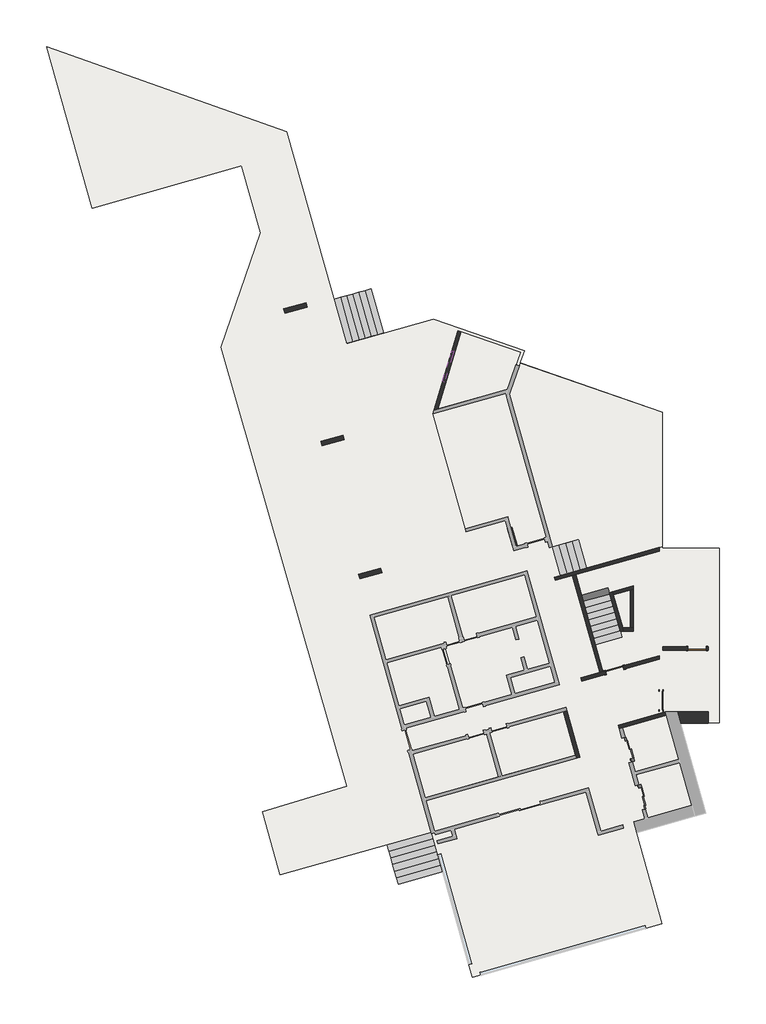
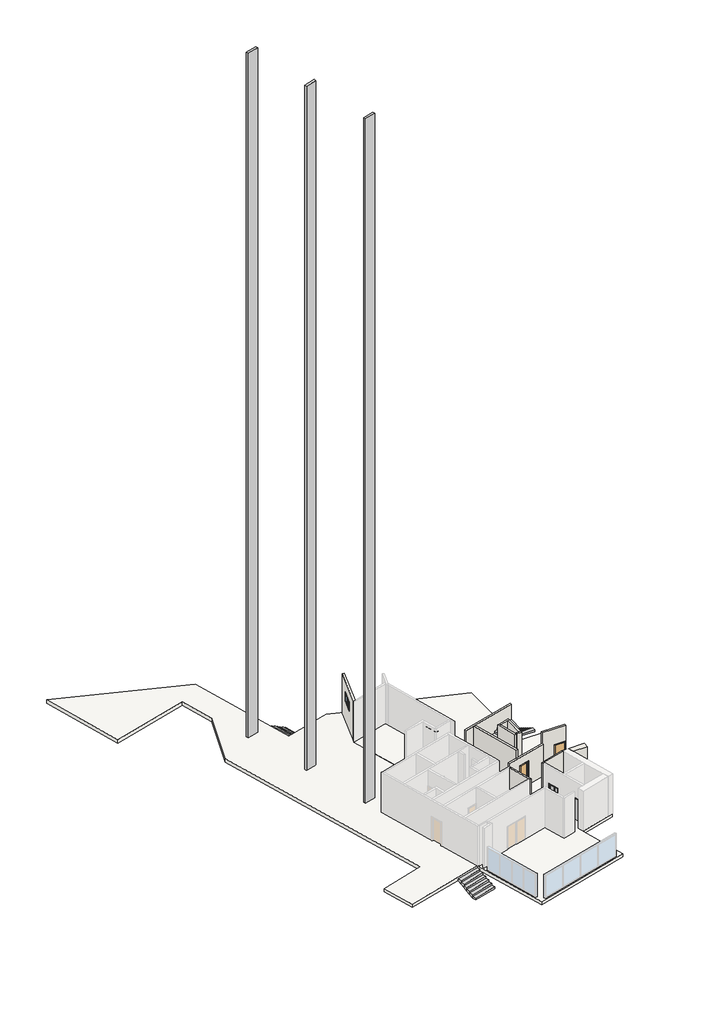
# One storey, part 2 of 2: 12 walls, 8 slabs, 4 columns, 4 stair flights, 3 doors, 2 proxies, 1 window.
"""IFC4 building model written with IfcOpenShell, lengths in millimetres."""

from ifc_helpers import new_model, si_unit, frame, origin, place, context, project, spatial, polyline, outline, extrude, faceted_brep, transform, mapped, element, save
from components import specialty_equipment_6c35da8b, specialty_equipment_77dfa124, p2_80cm_9d4be4ef, p2_80cm_083652d6, window_2_00_x_0_80_a1bbb97e

model = new_model("IFC4")

# Units and contexts
model_context = context("Model", 3, world=origin())
ifc_project = project(units=[si_unit("LENGTHUNIT", "METRE", prefix="MILLI")], contexts=[model_context])

# Site, building, storey
site = spatial("IfcSite", under=ifc_project)
building = spatial("IfcBuilding", under=site)
storey = spatial("IfcBuildingStorey", under=building, Name="Área de Lazer", Elevation=32650.0)

# Proxies
placement = place(None, origin())
specialty_equipment_shape = specialty_equipment_6c35da8b(model_context)
element("IfcBuildingElementProxy", 1, Name="Porta do elevador : Porta do elevador", ObjectType="Porta do elevador : Porta do elevador", at=placement, inside=storey, context=model_context, shape_type="MappedRepresentation", body=[
    mapped(specialty_equipment_shape, transform((-76595.3275875, 15747.2019556, 32650.0), x_axis=(0.2717679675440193, -0.9623628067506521, 0.0), y_axis=(0.9623628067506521, 0.2717679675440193, 0.0), z_axis=(0.0, 0.0, 1.0))),
])
specialty_equipment_2_shape = specialty_equipment_77dfa124(model_context)
element("IfcBuildingElementProxy", 2, Name="Porta do elevador : Porta do elevador", ObjectType="Porta do elevador : Porta do elevador", at=placement, inside=storey, context=model_context, shape_type="MappedRepresentation", body=[
    mapped(specialty_equipment_2_shape, transform((-75943.0844654, 13437.5312194, 32650.0), x_axis=(-0.27176796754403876, 0.9623628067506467, 0.0), y_axis=(-0.9623628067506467, -0.27176796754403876, 0.0), z_axis=(0.0, 0.0, 1.0))),
])

# Columns
element("IfcColumn", 3, ObjectType="M_Concrete-Rectangular-Column : 1.00m x 0.20m", at=placement, inside=storey, context=model_context, shape_type="SweptSolid", body=[
    extrude(outline(polyline([(-81788.3247209, 25310.0454163), (-81595.8521595, 25364.3990098), (-81324.084192, 24402.036203), (-81516.5567533, 24347.6826095), (-81788.3247209, 25310.0454163)])), frame((0.0, 0.0, 32650.0), z_axis=(0.0, 0.0, 1.0), x_axis=(1.0, 0.0, 0.0)), (0.0, 0.0, 1.0), 3300.0),
])
element("IfcColumn", 4, ObjectType="M_Concrete-Rectangular-Column : 1.00m x 0.20m", at=placement, inside=storey, context=model_context, shape_type="SweptSolid", body=[
    extrude(outline(polyline([(-87335.9530215, 23574.8619051), (-87281.599428, 23382.3893437), (-88243.9622347, 23110.6213762), (-88298.3158282, 23303.0939375), (-87335.9530215, 23574.8619051)])), frame((0.0, 0.0, 32650.0), z_axis=(0.0, 0.0, 1.0), x_axis=(1.0, 0.0, 0.0)), (0.0, 0.0, 1.0), 61600.0),
])
element("IfcColumn", 5, ObjectType="M_Concrete-Rectangular-Column : 1.00m x 0.20m", at=placement, inside=storey, context=model_context, shape_type="SweptSolid", body=[
    extrude(outline(polyline([(-88994.5846672, 29393.0803664), (-88940.2310737, 29200.607805), (-89902.5938805, 28928.8398375), (-89956.947474, 29121.3123988), (-88994.5846672, 29393.0803664)])), frame((0.0, 0.0, 32650.0), z_axis=(0.0, 0.0, 1.0), x_axis=(1.0, 0.0, 0.0)), (0.0, 0.0, 1.0), 61600.0),
])
element("IfcColumn", 6, ObjectType="M_Concrete-Rectangular-Column : 1.00m x 0.20m", at=placement, inside=storey, context=model_context, shape_type="SweptSolid", body=[
    extrude(outline(polyline([(-90613.47471, 35180.9573543), (-90559.1211165, 34988.4847929), (-91521.4839232, 34716.7168254), (-91575.8375167, 34909.1893867), (-90613.47471, 35180.9573543)])), frame((0.0, 0.0, 32650.0), z_axis=(0.0, 0.0, 1.0), x_axis=(1.0, 0.0, 0.0)), (0.0, 0.0, 1.0), 61600.0),
])

# Doors
p2_80cm_shape = p2_80cm_9d4be4ef(model_context)
element("IfcDoor", 7, ObjectType="M_Folha única1 : P2 - 80CM", at=placement, inside=storey, context=model_context, shape_type="MappedRepresentation", body=[
    mapped(p2_80cm_shape, transform((-73498.3760975, 20071.8166516, 32650.0), x_axis=(1.0, 0.0, 0.0), y_axis=(0.0, 1.0, 0.0), z_axis=(0.0, 0.0, 1.0))),
])
p2_80cm_2_shape = p2_80cm_083652d6(model_context)
element("IfcDoor", 8, ObjectType="M_Folha única1 : P2 - 80CM", at=placement, inside=storey, context=model_context, shape_type="MappedRepresentation", body=[
    mapped(p2_80cm_2_shape, transform((-75071.0514969, 17796.8166516, 32650.0), x_axis=(0.0, -1.0, 0.0), y_axis=(1.0, 0.0, 0.0), z_axis=(0.0, 0.0, 1.0))),
])
element("IfcDoor", 9, ObjectType="M_Folha única1 : PCF1 - 80CM", at=placement, inside=storey, context=model_context, shape_type="MappedRepresentation", body=[
    mapped(p2_80cm_shape, transform((-77107.4928767, 19124.6744134, 32650.0), x_axis=(-0.962362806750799, -0.27176796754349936, 0.0), y_axis=(0.27176796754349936, -0.962362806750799, 0.0), z_axis=(0.0, 0.0, 1.0))),
])

# Slabs
element("IfcSlab", 10, ObjectType="TZ_Piso de Áreas Molhadas", at=placement, inside=storey, context=model_context, shape_type="SweptSolid", body=[
    extrude(outline(polyline([(-83820.8577908, 33912.6770394), (-81227.7294987, 33014.3892699), (-81786.1608388, 31401.4141059), (-84835.9383396, 30540.1673629), (-83820.8577908, 33912.6770394)])), frame((0.0, 0.0, 32650.0), z_axis=(0.0, 0.0, 1.0), x_axis=(1.0, 0.0, 0.0)), (0.0, 0.0, 1.0), 20.0),
])
element("IfcSlab", 11, ObjectType="TZ_Piso de Áreas Molhadas", at=placement, inside=storey, context=model_context, shape_type="SweptSolid", body=[
    extrude(outline(polyline([(-83639.5945753, 25306.6586424), (-85058.4086835, 30321.4761254), (-81866.468334, 31222.8691709), (-80088.1519276, 24905.7475268), (-81413.0534441, 24532.7779631), (-81779.4503725, 25832.9387807), (-83639.5945753, 25306.6586424)])), frame((0.0, 0.0, 32650.0), z_axis=(0.0, 0.0, 1.0), x_axis=(1.0, 0.0, 0.0)), (0.0, 0.0, 1.0), 20.0),
])
element("IfcSlab", 12, ObjectType="TZ_Piso de Áreas Molhadas", at=placement, inside=storey, context=model_context, shape_type="SweptSolid", body=[
    extrude(outline(polyline([(-87068.2844594, 19440.7357422), (-84662.3774425, 20120.1556611), (-83894.944188, 17402.5829187), (-84986.2353871, 17094.4060138), (-85225.3911986, 17941.2852837), (-86540.0070163, 17570.0422698), (-87068.2844594, 19440.7357422)])), frame((0.0, 0.0, 32650.0), z_axis=(0.0, 0.0, 1.0), x_axis=(1.0, 0.0, 0.0)), (0.0, 0.0, 1.0), 20.0),
])
element("IfcSlab", 13, ObjectType="TZ_Piso de Áreas Molhadas", at=placement, inside=storey, context=model_context, shape_type="SweptSolid", body=[
    extrude(outline(polyline([(-80476.0992332, 21302.3463199), (-79947.82179, 19431.6528475), (-81844.6627518, 18895.9914427), (-81605.5069404, 18049.1121728), (-83750.589767, 17443.3481138), (-84518.0230215, 20160.9208562), (-80476.0992332, 21302.3463199)])), frame((0.0, 0.0, 32650.0), z_axis=(0.0, 0.0, 1.0), x_axis=(1.0, 0.0, 0.0)), (0.0, 0.0, 1.0), 20.0),
])
element("IfcSlab", 14, ObjectType="TZ_Piso de Áreas Molhadas", at=placement, inside=storey, context=model_context, shape_type="SweptSolid", body=[
    extrude(outline(polyline([(-85940.4473941, 15446.9300942), (-82716.5319915, 16357.3527855), (-82180.1015093, 14457.7884288), (-85404.0169119, 13547.3657376), (-85940.4473941, 15446.9300942)])), frame((0.0, 0.0, 32650.0), z_axis=(0.0, 0.0, 1.0), x_axis=(1.0, 0.0, 0.0)), (0.0, 0.0, 1.0), 20.0),
])
element("IfcSlab", 15, ObjectType="TZ_Piso de Áreas Molhadas", at=placement, inside=storey, context=model_context, shape_type="SweptSolid", body=[
    extrude(outline(polyline([(-79348.2621679, 17308.5406719), (-78811.8316857, 15408.9763153), (-82035.7470883, 14498.553624), (-82572.1775705, 16398.1179806), (-79348.2621679, 17308.5406719)])), frame((0.0, 0.0, 32650.0), z_axis=(0.0, 0.0, 1.0), x_axis=(1.0, 0.0, 0.0)), (0.0, 0.0, 1.0), 20.0),
])
element("IfcSlab", 16, ObjectType="Laje do Terreno .30", at=placement, inside=storey, context=model_context, shape_type="SweptSolid", body=[
    extrude(outline(polyline([(-88825.9987208, 33392.1917006), (-85022.1321722, 34466.3906134), (-81062.0243906, 33094.5663203), (-81249.8824935, 32551.9562758), (-75016.0514969, 30392.4895967), (-75016.0514969, 24446.5473208), (-72518.3760975, 24446.5473208), (-72518.3760975, 16816.1835253), (-74246.5108712, 16816.1835253), (-73133.5082716, 12874.9084909), (-76161.0331377, 12019.9458159), (-75033.3954808, 8026.8462968), (-83319.3392469, 5686.9240962), (-85114.3299809, 12043.2005051), (-91736.385788, 10174.1009634), (-92513.2117725, 12926.3273198), (-88820.0735017, 14046.6594176), (-94323.2305019, 33238.4486268), (-92591.6151058, 38237.1818027), (-93418.2451963, 41165.8597406), (-99962.5568362, 39318.7037752), (-101956.3177579, 46382.4239222), (-91445.473024, 42668.0628246), (-88825.9987208, 33392.1917006)])), frame((0.0, 0.0, 32350.0), z_axis=(0.0, 0.0, 1.0), x_axis=(1.0, 0.0, 0.0)), (0.0, 0.0, 1.0), 300.0),
])
element("IfcSlab", 17, ObjectType="TZ_Laje 30cm", at=placement, inside=storey, context=model_context, shape_type="SweptSolid", body=[
    extrude(outline(polyline([(-75016.0514969, 30392.4895967), (-75016.0514969, 24519.3776789), (-78314.6838953, 23587.8551633), (-78666.6219999, 24838.0465298), (-79821.7256067, 24512.8763319), (-81701.0418755, 31188.7802571), (-81231.3202204, 32545.5260362), (-75016.0514969, 30392.4895967)])), frame((0.0, 0.0, 33250.0), z_axis=(0.0, 0.0, 1.0), x_axis=(1.0, 0.0, 0.0)), (0.0, 0.0, 1.0), 300.0),
])

# Stair flights
element("IfcStairFlight", 18, ObjectType="Profundidade de 150mm", at=placement, inside=storey, context=model_context, shape_type="Brep", body=[
    faceted_brep([(-87484.1261507, 33791.9141113, 31641.4285714), (-87214.6645648, 33868.0091422, 31641.4285714), (-87758.2004999, 35792.7347557, 31641.4285714), (-88027.6620858, 35716.6397248, 31641.4285714), (-87484.1261507, 33791.9141113, 31470.0), (-87214.6645648, 33868.0091422, 31470.0), (-87758.2004999, 35792.7347557, 31470.0), (-88027.6620858, 35716.6397248, 31470.0), (-87753.5877366, 33715.8190803, 31812.8571429), (-87484.1261507, 33791.9141113, 31812.8571429), (-88027.6620858, 35716.6397248, 31812.8571429), (-88297.1236717, 35640.5446938, 31812.8571429), (-87753.5877366, 33715.8190803, 31636.9765418), (-87491.1241147, 33789.9379101, 31470.0), (-88034.6600498, 35714.6635236, 31470.0), (-88297.1236717, 35640.5446938, 31636.9765418), (-88023.0493225, 33639.7240494, 31984.2857143), (-87753.5877366, 33715.8190803, 31984.2857143), (-88297.1236717, 35640.5446938, 31984.2857143), (-88566.5852576, 35564.4496629, 31984.2857143), (-88023.0493225, 33639.7240494, 31808.4051132), (-88566.5852576, 35564.4496629, 31808.4051132), (-88292.5109084, 33563.6290185, 32155.7142857), (-88023.0493225, 33639.7240494, 32155.7142857), (-88566.5852576, 35564.4496629, 32155.7142857), (-88836.0468435, 35488.354632, 32155.7142857), (-88292.5109084, 33563.6290185, 31979.8336846), (-88836.0468435, 35488.354632, 31979.8336846), (-88561.9724943, 33487.5339876, 32327.1428571), (-88292.5109084, 33563.6290185, 32327.1428571), (-88836.0468435, 35488.354632, 32327.1428571), (-89105.5084294, 35412.2596011, 32327.1428571), (-88561.9724943, 33487.5339876, 32151.2622561), (-89105.5084294, 35412.2596011, 32151.2622561), (-88831.4340802, 33411.4389567, 32498.5714286), (-88561.9724943, 33487.5339876, 32498.5714286), (-89105.5084294, 35412.2596011, 32498.5714286), (-89374.9700153, 35336.1645702, 32498.5714286), (-88831.4340802, 33411.4389567, 32322.6908275), (-89374.9700153, 35336.1645702, 32322.6908275)], [[[0, 1, 2, 3]], [[1, 0, 4, 5]], [[2, 1, 5, 6]], [[3, 2, 6, 7]], [[8, 9, 10, 11]], [[4, 0, 9, 8, 12, 13]], [[0, 3, 10, 9]], [[3, 7, 14, 15, 11, 10]], [[16, 17, 18, 19]], [[17, 16, 20, 12, 8]], [[8, 11, 18, 17]], [[19, 18, 11, 15, 21]], [[22, 23, 24, 25]], [[23, 22, 26, 20, 16]], [[16, 19, 24, 23]], [[25, 24, 19, 21, 27]], [[28, 29, 30, 31]], [[29, 28, 32, 26, 22]], [[22, 25, 30, 29]], [[31, 30, 25, 27, 33]], [[34, 35, 36, 37]], [[35, 34, 38, 32, 28]], [[28, 31, 36, 35]], [[37, 36, 31, 33, 39]], [[34, 37, 39, 38]], [[5, 4, 13, 14, 7, 6]], [[14, 13, 12, 20, 26, 32, 38, 39, 33, 27, 21, 15]]]),
])
element("IfcStairFlight", 19, ObjectType="Profundidade de 150mm", at=placement, inside=storey, context=model_context, shape_type="Brep", body=[
    faceted_brep([(-86650.915528, 10050.8881158, 31638.5714286), (-86569.4233531, 9762.1684846, 31638.5714286), (-84644.625812, 10305.4496509, 31638.5714286), (-84726.1179869, 10594.1692821, 31638.5714286), (-86650.915528, 10050.8881158, 31470.0), (-86569.4233531, 9762.1684846, 31470.0), (-84644.625812, 10305.4496509, 31470.0), (-84726.1179869, 10594.1692821, 31470.0), (-86732.407703, 10339.607747, 31807.1428571), (-86650.915528, 10050.8881158, 31807.1428571), (-84726.1179869, 10594.1692821, 31807.1428571), (-84807.6101618, 10882.8889133, 31807.1428571), (-86732.407703, 10339.607747, 31635.0844902), (-86652.6012122, 10056.8603471, 31470.0), (-84727.8036711, 10600.1415134, 31470.0), (-84807.6101618, 10882.8889133, 31635.0844902), (-86813.8998779, 10628.3273781, 31975.7142857), (-86732.407703, 10339.607747, 31975.7142857), (-84807.6101618, 10882.8889133, 31975.7142857), (-84889.1023368, 11171.6085444, 31975.7142857), (-86813.8998779, 10628.3273781, 31803.6559188), (-84889.1023368, 11171.6085444, 31803.6559188), (-86895.3920529, 10917.0470093, 32144.2857143), (-86813.8998779, 10628.3273781, 32144.2857143), (-84889.1023368, 11171.6085444, 32144.2857143), (-84970.5945117, 11460.3281756, 32144.2857143), (-86895.3920529, 10917.0470093, 31972.2273473), (-84970.5945117, 11460.3281756, 31972.2273473), (-86976.8842278, 11205.7666405, 32312.8571429), (-86895.3920529, 10917.0470093, 32312.8571429), (-84970.5945117, 11460.3281756, 32312.8571429), (-85052.0866867, 11749.0478068, 32312.8571429), (-86976.8842278, 11205.7666405, 32140.7987759), (-85052.0866867, 11749.0478068, 32140.7987759), (-87058.3764027, 11494.4862717, 32481.4285714), (-86976.8842278, 11205.7666405, 32481.4285714), (-85052.0866867, 11749.0478068, 32481.4285714), (-85133.5788616, 12037.7674379, 32481.4285714), (-87058.3764027, 11494.4862717, 32309.3702045), (-85133.5788616, 12037.7674379, 32309.3702045)], [[[0, 1, 2, 3]], [[1, 0, 4, 5]], [[2, 1, 5, 6]], [[3, 2, 6, 7]], [[8, 9, 10, 11]], [[4, 0, 9, 8, 12, 13]], [[0, 3, 10, 9]], [[3, 7, 14, 15, 11, 10]], [[16, 17, 18, 19]], [[17, 16, 20, 12, 8]], [[8, 11, 18, 17]], [[19, 18, 11, 15, 21]], [[22, 23, 24, 25]], [[23, 22, 26, 20, 16]], [[16, 19, 24, 23]], [[25, 24, 19, 21, 27]], [[28, 29, 30, 31]], [[29, 28, 32, 26, 22]], [[22, 25, 30, 29]], [[31, 30, 25, 27, 33]], [[34, 35, 36, 37]], [[35, 34, 38, 32, 28]], [[28, 31, 36, 35]], [[37, 36, 31, 33, 39]], [[34, 37, 39, 38]], [[5, 4, 13, 14, 7, 6]], [[14, 13, 12, 20, 26, 32, 38, 39, 33, 27, 21, 15]]]),
])
element("IfcStairFlight", 20, ObjectType="Profundidade de 150mm", at=placement, inside=storey, context=model_context, shape_type="Brep", body=[
    faceted_brep([(-79532.4219561, 24592.2941563, 32830.0), (-79821.1978578, 24511.0016068, 32830.0), (-79468.9301434, 23259.6393661, 32830.0), (-79180.1542417, 23340.9319156, 32830.0), (-79532.4219561, 24592.2941563, 32655.0714432), (-79540.5581259, 24590.0037644, 32650.0), (-79821.1978578, 24511.0016068, 32650.0), (-79468.9301434, 23259.6393661, 32650.0), (-79188.2904115, 23338.6415237, 32650.0), (-79180.1542417, 23340.9319156, 32655.0714432), (-79243.6460544, 24673.5867057, 33010.0), (-79532.4219561, 24592.2941563, 33010.0), (-79180.1542417, 23340.9319156, 33010.0), (-78891.37834, 23422.224465, 33010.0), (-79243.6460544, 24673.5867057, 32835.0714432), (-78891.37834, 23422.224465, 32835.0714432), (-78954.8701527, 24754.8792552, 33190.0), (-79243.6460544, 24673.5867057, 33190.0), (-78891.37834, 23422.224465, 33190.0), (-78602.6024383, 23503.5170145, 33190.0), (-78954.8701527, 24754.8792552, 33015.0714432), (-78602.6024383, 23503.5170145, 33015.0714432), (-78666.094251, 24836.1718047, 33370.0), (-78954.8701527, 24754.8792552, 33370.0), (-78602.6024383, 23503.5170145, 33370.0), (-78313.8265366, 23584.809564, 33370.0), (-78666.094251, 24836.1718047, 33195.0714432), (-78313.8265366, 23584.809564, 33195.0714432)], [[[0, 1, 2, 3]], [[1, 0, 4, 5, 6]], [[2, 1, 6, 7]], [[3, 2, 7, 8, 9]], [[10, 11, 12, 13]], [[11, 10, 14, 4, 0]], [[0, 3, 12, 11]], [[13, 12, 3, 9, 15]], [[16, 17, 18, 19]], [[17, 16, 20, 14, 10]], [[10, 13, 18, 17]], [[19, 18, 13, 15, 21]], [[22, 23, 24, 25]], [[23, 22, 26, 20, 16]], [[16, 19, 24, 23]], [[25, 24, 19, 21, 27]], [[22, 25, 27, 26]], [[7, 6, 5, 8]], [[8, 5, 4, 14, 20, 26, 27, 21, 15, 9]]]),
])
element("IfcStairFlight", 21, ObjectType="Profundidade de 150mm", at=placement, inside=storey, context=model_context, shape_type="Brep", body=[
    faceted_brep([(-78015.1156679, 20507.5143599, 32821.4285714), (-77938.8020407, 20238.1145048, 32821.4285714), (-76787.2156368, 20563.3185695, 32821.4285714), (-76863.3106677, 20832.7801554, 32821.4285714), (-78015.1156679, 20507.5143599, 32650.0), (-77938.8020407, 20238.1145048, 32650.0), (-76787.2156368, 20563.3185695, 32650.0), (-76863.3106677, 20832.7801554, 32650.0), (-78091.4292951, 20776.9142149, 32992.8571429), (-78015.1156679, 20507.5143599, 32992.8571429), (-76863.3106677, 20832.7801554, 32992.8571429), (-76939.4056986, 21102.2417413, 32992.8571429), (-78091.4292951, 20776.9142149, 32816.9765418), (-78017.097546, 20514.5107207, 32650.0), (-76865.2868688, 20839.7781194, 32650.0), (-76939.4056986, 21102.2417413, 32816.9765418), (-78167.7429223, 21046.31407, 33164.2857143), (-78091.4292951, 20776.9142149, 33164.2857143), (-76939.4056986, 21102.2417413, 33164.2857143), (-77015.5007295, 21371.7033272, 33164.2857143), (-78167.7429223, 21046.31407, 32988.4051132), (-77015.5007295, 21371.7033272, 32988.4051132), (-78244.0565494, 21315.713925, 33335.7142857), (-78167.7429223, 21046.31407, 33335.7142857), (-77015.5007295, 21371.7033272, 33335.7142857), (-77091.5957604, 21641.1649131, 33335.7142857), (-78244.0565494, 21315.713925, 33159.8336846), (-77091.5957604, 21641.1649131, 33159.8336846), (-78320.3701766, 21585.1137801, 33507.1428571), (-78244.0565494, 21315.713925, 33507.1428571), (-77091.5957604, 21641.1649131, 33507.1428571), (-77167.6907913, 21910.626499, 33507.1428571), (-78320.3701766, 21585.1137801, 33331.2622561), (-77167.6907913, 21910.626499, 33331.2622561), (-78396.6838038, 21854.5136351, 33678.5714286), (-78320.3701766, 21585.1137801, 33678.5714286), (-77167.6907913, 21910.626499, 33678.5714286), (-77243.7858222, 22180.0880849, 33678.5714286), (-78396.6838038, 21854.5136351, 33502.6908275), (-77243.7858222, 22180.0880849, 33502.6908275), (-78472.9974309, 22123.9134902, 33850.0), (-78396.6838038, 21854.5136351, 33850.0), (-77243.7858222, 22180.0880849, 33850.0), (-77319.8808531, 22449.5496707, 33850.0), (-78472.9974309, 22123.9134902, 33674.1193989), (-77319.8808531, 22449.5496707, 33674.1193989), (-76587.9331289, 23919.6173054, 34707.1428571), (-76841.9166099, 23847.8932385, 34707.1428571), (-76529.2697205, 22740.773291, 34707.1428571), (-76275.2862396, 22812.497358, 34707.1428571), (-76587.9331289, 23919.6173054, 34530.5599222), (-76841.9166099, 23847.8932385, 34366.624203), (-76841.9166099, 23847.8932385, 34535.7142857), (-76529.2697205, 22740.773291, 34535.7142857), (-76529.2697205, 22740.773291, 34366.624203), (-75968.509584, 22899.1300371, 34728.5714286), (-76275.2862396, 22812.497358, 34728.5714286), (-78560.8321396, 22433.984688, 33871.4285714), (-77407.463964, 22759.6919189, 33871.4285714), (-78804.367136, 23293.703917, 33871.4285714), (-77650.3013675, 23619.6081457, 33871.4285714), (-77609.1167716, 23631.2385349, 33871.4285714), (-77296.4698823, 22524.1185875, 33871.4285714), (-77337.6544782, 22512.4881983, 33871.4285714), (-77380.8397817, 23695.7031766, 34018.7718253), (-77111.3781958, 23771.7982076, 34192.6980141), (-76281.1564733, 24006.2499845, 34728.5714286), (-76275.2862396, 23985.4627864, 34728.5714286), (-76798.7313064, 22664.6782601, 34192.6980141), (-77068.1928923, 22588.5832292, 34018.7718253), (-75146.0514969, 24326.7997504, 34728.5714286), (-75146.0514969, 22969.4639004, 34728.5714286), (-75146.0514969, 22799.1154254, 34728.5714286), (-75146.0514969, 22756.843777, 34728.5714286), (-76275.2862396, 22756.843777, 34728.5714286), (-76275.2862396, 22799.1154254, 34728.5714286), (-75146.0514969, 22519.1154254, 34874.1193989), (-75146.0514969, 22239.1154254, 35045.5479703), (-75146.0514969, 21959.1154254, 35216.9765418), (-75146.0514969, 21679.1154254, 35388.4051132), (-75146.0514969, 21399.1154254, 35559.8336846), (-75146.0514969, 21119.1154254, 35731.2622561), (-75146.0514969, 20839.1154254, 35902.6908275), (-76275.2862396, 20839.1154254, 35902.6908275), (-76275.2862396, 21119.1154254, 35731.2622561), (-76275.2862396, 21399.1154254, 35559.8336846), (-76275.2862396, 21679.1154254, 35388.4051132), (-76275.2862396, 21959.1154254, 35216.9765418), (-76275.2862396, 22239.1154254, 35045.5479703), (-76275.2862396, 22519.1154254, 34874.1193989), (-77650.3013675, 23619.6081457, 34021.4285714), (-78804.367136, 23293.703917, 34021.4285714), (-78560.8321396, 22433.984688, 34021.4285714), (-78472.9974309, 22123.9134902, 34021.4285714), (-77319.8808531, 22449.5496707, 34021.4285714), (-77337.6544782, 22512.4881983, 34021.4285714), (-77650.3013675, 23619.6081457, 34192.8571429), (-77337.6544782, 22512.4881983, 34192.8571429), (-77296.4698823, 22524.1185875, 34192.8571429), (-77068.1928923, 22588.5832292, 34192.8571429), (-77380.8397817, 23695.7031766, 34192.8571429), (-77609.1167716, 23631.2385349, 34192.8571429), (-77111.3781958, 23771.7982076, 34364.2857143), (-77380.8397817, 23695.7031766, 34364.2857143), (-77068.1928923, 22588.5832292, 34364.2857143), (-76798.7313064, 22664.6782601, 34364.2857143), (-77111.3781958, 23771.7982076, 34535.7142857), (-76798.7313064, 22664.6782601, 34535.7142857), (-75146.0514969, 22799.1154254, 34878.5714286), (-75146.0514969, 22969.4639004, 34878.5714286), (-75146.0514969, 24326.7997504, 34878.5714286), (-76281.1564733, 24006.2499845, 34878.5714286), (-76587.9331289, 23919.6173054, 34878.5714286), (-76275.2862396, 22812.497358, 34878.5714286), (-76275.2862396, 22799.1154254, 34878.5714286), (-75146.0514969, 22799.1154254, 35050.0), (-76275.2862396, 22799.1154254, 35050.0), (-76275.2862396, 22756.843777, 35050.0), (-76275.2862396, 22519.1154254, 35050.0), (-75146.0514969, 22519.1154254, 35050.0), (-75146.0514969, 22756.843777, 35050.0), (-75146.0514969, 22239.1154254, 35221.4285714), (-75146.0514969, 22519.1154254, 35221.4285714), (-76275.2862396, 22519.1154254, 35221.4285714), (-76275.2862396, 22239.1154254, 35221.4285714), (-75146.0514969, 21959.1154254, 35392.8571429), (-75146.0514969, 22239.1154254, 35392.8571429), (-76275.2862396, 22239.1154254, 35392.8571429), (-76275.2862396, 21959.1154254, 35392.8571429), (-75146.0514969, 21679.1154254, 35564.2857143), (-75146.0514969, 21959.1154254, 35564.2857143), (-76275.2862396, 21959.1154254, 35564.2857143), (-76275.2862396, 21679.1154254, 35564.2857143), (-75146.0514969, 21399.1154254, 35735.7142857), (-75146.0514969, 21679.1154254, 35735.7142857), (-76275.2862396, 21679.1154254, 35735.7142857), (-76275.2862396, 21399.1154254, 35735.7142857), (-75146.0514969, 21119.1154254, 35907.1428571), (-75146.0514969, 21399.1154254, 35907.1428571), (-76275.2862396, 21399.1154254, 35907.1428571), (-76275.2862396, 21119.1154254, 35907.1428571), (-75146.0514969, 20839.1154254, 36078.5714286), (-75146.0514969, 21119.1154254, 36078.5714286), (-76275.2862396, 21119.1154254, 36078.5714286), (-76275.2862396, 20839.1154254, 36078.5714286)], [[[0, 1, 2, 3]], [[1, 0, 4, 5]], [[2, 1, 5, 6]], [[3, 2, 6, 7]], [[8, 9, 10, 11]], [[4, 0, 9, 8, 12, 13]], [[0, 3, 10, 9]], [[3, 7, 14, 15, 11, 10]], [[16, 17, 18, 19]], [[17, 16, 20, 12, 8]], [[8, 11, 18, 17]], [[19, 18, 11, 15, 21]], [[22, 23, 24, 25]], [[23, 22, 26, 20, 16]], [[16, 19, 24, 23]], [[25, 24, 19, 21, 27]], [[28, 29, 30, 31]], [[29, 28, 32, 26, 22]], [[22, 25, 30, 29]], [[31, 30, 25, 27, 33]], [[34, 35, 36, 37]], [[35, 34, 38, 32, 28]], [[28, 31, 36, 35]], [[37, 36, 31, 33, 39]], [[40, 41, 42, 43]], [[41, 40, 44, 38, 34]], [[34, 37, 42, 41]], [[43, 42, 37, 39, 45]], [[46, 47, 48, 49]], [[47, 46, 50, 51, 52]], [[52, 53, 48, 47]], [[49, 48, 53, 54, 55, 56]], [[5, 4, 13, 14, 7, 6]], [[57, 58, 45, 39, 33, 27, 21, 15, 14, 13, 12, 20, 26, 32, 38, 44]], [[58, 57, 59, 60, 61, 62, 63]], [[62, 61, 64, 65, 51, 50, 66, 67, 55, 54, 68, 69]], [[67, 66, 70, 71, 72, 73, 74, 75, 56, 55]], [[74, 73, 76, 77, 78, 79, 80, 81, 82, 83, 84, 85, 86, 87, 88, 89]], [[90, 91, 92, 93, 94, 95]], [[91, 90, 60, 59]], [[40, 93, 92, 91, 59, 57, 44]], [[40, 43, 94, 93]], [[95, 94, 43, 45, 58, 63]], [[96, 97, 98, 99, 100, 101]], [[90, 96, 101, 100, 64, 61, 60]], [[90, 95, 97, 96]], [[97, 95, 63, 62, 69, 99, 98]], [[102, 103, 104, 105]], [[103, 102, 65, 64, 100]], [[100, 99, 104, 103]], [[105, 104, 99, 69, 68]], [[52, 106, 107, 53]], [[106, 52, 51, 65, 102]], [[102, 105, 107, 106]], [[53, 107, 105, 68, 54]], [[108, 109, 110, 111, 112, 113, 114]], [[109, 108, 72, 71]], [[110, 109, 71, 70]], [[46, 112, 111, 110, 70, 66, 50]], [[46, 49, 56, 113, 112]], [[114, 113, 56, 75]], [[115, 116, 117, 118, 119, 120]], [[108, 115, 120, 119, 76, 73, 72]], [[108, 114, 116, 115]], [[116, 114, 75, 74, 89, 118, 117]], [[121, 122, 123, 124]], [[122, 121, 77, 76, 119]], [[119, 118, 123, 122]], [[124, 123, 118, 89, 88]], [[125, 126, 127, 128]], [[126, 125, 78, 77, 121]], [[121, 124, 127, 126]], [[128, 127, 124, 88, 87]], [[129, 130, 131, 132]], [[130, 129, 79, 78, 125]], [[125, 128, 131, 130]], [[132, 131, 128, 87, 86]], [[133, 134, 135, 136]], [[134, 133, 80, 79, 129]], [[129, 132, 135, 134]], [[136, 135, 132, 86, 85]], [[137, 138, 139, 140]], [[138, 137, 81, 80, 133]], [[133, 136, 139, 138]], [[140, 139, 136, 85, 84]], [[141, 142, 143, 144]], [[142, 141, 82, 81, 137]], [[137, 140, 143, 142]], [[144, 143, 140, 84, 83]], [[141, 144, 83, 82]]]),
])

# Walls
element("IfcWall", 22, ObjectType="Básica .15 -  Interna", at=placement, inside=storey, context=model_context, shape_type="Brep", body=[
    faceted_brep([(-84835.9383396, 30540.1673629, 32650.0), (-83820.8577908, 33912.6770394, 32650.0), (-83820.8577908, 33912.6770394, 36250.0), (-84835.9383396, 30540.1673629, 36250.0), (-84084.2916207, 33037.4429101, 34450.0), (-84487.7920357, 31696.8507219, 34450.0), (-84487.7920357, 31696.8507219, 35250.0), (-84084.2916207, 33037.4429101, 35250.0), (-85007.1370087, 30491.8214439, 32650.0), (-85007.1370087, 30491.8214439, 36250.0), (-83962.714304, 33961.8176743, 36250.0), (-83962.714304, 33961.8176743, 32650.0), (-84227.926498, 33080.6750975, 34450.0), (-84227.926498, 33080.6750975, 35250.0), (-84631.426913, 31740.0829093, 35250.0), (-84631.426913, 31740.0829093, 34450.0)], [[[0, 1, 2, 3], [4, 5, 6, 7]], [[8, 9, 10, 11], [12, 13, 14, 15]], [[1, 0, 8, 11]], [[3, 2, 10, 9]], [[0, 3, 9, 8]], [[2, 1, 11, 10]], [[13, 12, 4, 7]], [[14, 13, 7, 6]], [[15, 14, 6, 5]], [[12, 15, 5, 4]]]),
])
element("IfcWall", 23, ObjectType="Básica .15 -  Interna", at=placement, inside=storey, context=model_context, shape_type="Brep", body=[
    faceted_brep([(-79348.2621678, 17308.5406719, 32650.0), (-78811.8316857, 15408.9763152, 32650.0), (-78771.0664906, 15264.6218942, 32650.0), (-78771.0664906, 15264.6218942, 36250.0), (-78811.8316857, 15408.9763152, 36250.0), (-79348.2621678, 17308.5406719, 36250.0), (-79203.9077468, 17349.305867, 32650.0), (-79203.9077468, 17349.305867, 36250.0), (-78626.7120696, 15305.3870894, 36250.0), (-78626.7120696, 15305.3870894, 32650.0)], [[[0, 1, 2, 3, 4, 5]], [[6, 7, 8, 9]], [[2, 1, 0, 6, 9]], [[5, 4, 3, 8, 7]], [[0, 5, 7, 6]], [[3, 2, 9, 8]]]),
])
element("IfcWall", 24, ObjectType="Básica .15 -  Interna", at=placement, inside=storey, context=model_context, shape_type="Brep", body=[
    faceted_brep([(-77512.820597, 19088.1444369, 34750.0), (-77512.820597, 19088.1444369, 32650.0), (-77609.0568777, 19060.9676402, 32650.0), (-77753.4112987, 19020.202445, 32650.0), (-78571.4196844, 18789.1996726, 32650.0), (-78571.4196844, 18789.1996726, 35520.0), (-75146.0514969, 19756.5119419, 35520.0), (-75146.0514969, 19756.5119419, 32650.0), (-76742.9303516, 19305.558811, 32650.0), (-76742.9303516, 19305.558811, 34750.0), (-78530.6544893, 18644.8452516, 32650.0), (-77472.0554019, 18943.7900159, 32650.0), (-77472.0554019, 18943.7900159, 34750.0), (-76702.1651565, 19161.20439, 34750.0), (-76702.1651565, 19161.20439, 32650.0), (-75146.0514969, 19600.6455691, 32650.0), (-75146.0514969, 19600.6455691, 35520.0), (-78530.6544893, 18644.8452516, 35520.0)], [[[0, 1, 2, 3, 4, 5, 6, 7, 8, 9]], [[10, 11, 12, 13, 14, 15, 16, 17]], [[8, 7, 15, 14]], [[4, 3, 2, 1, 11, 10]], [[5, 4, 10, 17]], [[6, 5, 17, 16]], [[12, 11, 1, 0]], [[13, 12, 0, 9]], [[14, 13, 9, 8]], [[7, 6, 16, 15]]]),
])
element("IfcWall", 25, ObjectType="Básica .15 -  Interna", at=placement, inside=storey, context=model_context, shape_type="Brep", body=[
    faceted_brep([(-79694.5527322, 23042.318547, 32650.0), (-78948.721557, 23252.9387219, 32650.0), (-78804.367136, 23293.703917, 32650.0), (-75146.0514969, 24326.7997504, 32650.0), (-75146.0514969, 24326.7997504, 36250.0), (-78804.367136, 23293.703917, 36250.0), (-78948.721557, 23252.9387219, 36250.0), (-79694.5527322, 23042.318547, 36250.0), (-79735.3179273, 23186.672968, 32650.0), (-79735.3179273, 23186.672968, 36250.0), (-75146.0514969, 24482.6661232, 36250.0), (-75146.0514969, 24482.6661232, 32650.0), (-75146.0514969, 24425.9126805, 32650.0)], [[[0, 1, 2, 3, 4, 5, 6, 7]], [[8, 9, 10, 11]], [[3, 2, 1, 0, 8, 11, 12]], [[7, 6, 5, 4, 10, 9]], [[0, 7, 9, 8]], [[4, 3, 12, 11, 10]]]),
])
element("IfcWall", 26, ObjectType="Básica .15 -  Interna", at=placement, inside=storey, context=model_context, shape_type="SweptSolid", body=[
    extrude(outline(polyline([(-77753.4112987, 19020.202445), (-78948.721557, 23252.9387219), (-78804.367136, 23293.703917), (-77609.0568777, 19060.9676402), (-77753.4112987, 19020.202445)])), frame((0.0, 0.0, 32650.0), z_axis=(0.0, 0.0, 1.0), x_axis=(1.0, 0.0, 0.0)), (0.0, 0.0, 1.0), 3600.0),
])
element("IfcWall", 27, ObjectType="Contenção 50cm - Externa", at=placement, inside=storey, context=model_context, shape_type="SweptSolid", body=[
    extrude(outline(polyline([(-74361.2790477, 17296.1835253), (-72998.3760975, 17296.1835253), (-72998.3760975, 16796.1835253), (-74220.0807565, 16796.1835253), (-74361.2790477, 17296.1835253)])), frame((0.0, 0.0, 32650.0), z_axis=(0.0, 0.0, 1.0), x_axis=(1.0, 0.0, 0.0)), (0.0, 0.0, 1.0), 3600.0),
])
element("IfcWall", 28, ObjectType="Básica .15 -  Interna", at=placement, inside=storey, context=model_context, shape_type="Brep", body=[
    faceted_brep([(-76905.3017696, 16568.8868139, 32650.0), (-76760.9473486, 16609.6520091, 32650.0), (-74840.1397102, 17152.0815214, 32650.0), (-74840.1397102, 17152.0815214, 36250.0), (-76760.9473486, 16609.6520091, 36250.0), (-76905.3017696, 16568.8868139, 36250.0), (-76946.0669647, 16713.241235, 32650.0), (-76946.0669647, 16713.241235, 36250.0), (-75146.0514969, 17221.5594511, 36250.0), (-74996.0514969, 17263.9189385, 36250.0), (-74880.9049053, 17296.4359424, 36250.0), (-74880.9049053, 17296.4359424, 32650.0), (-74880.8336236, 17296.1835253, 32650.0), (-74880.8336236, 17296.1835253, 36250.0)], [[[0, 1, 2, 3, 4, 5]], [[6, 7, 8, 9, 10, 11]], [[2, 1, 0, 6, 11, 12]], [[5, 4, 3, 13, 10, 9, 8, 7]], [[3, 2, 12, 11, 10, 13]], [[0, 5, 7, 6]]]),
])
element("IfcWall", 29, ObjectType="Básica .15 -  Interna", at=placement, inside=storey, context=model_context, shape_type="SweptSolid", body=[
    extrude(outline(polyline([(34750.0, -73098.3760975), (32650.0, -73098.3760975), (32650.0, -72998.3760975), (36250.0, -72998.3760975), (36250.0, -74996.0514969), (32650.0, -74996.0514969), (32650.0, -73898.3760975), (34750.0, -73898.3760975), (34750.0, -73098.3760975)])), frame((0.0, 19996.8166516, 0.0), z_axis=(0.0, 1.0, 0.0), x_axis=(0.0, 0.0, 1.0)), (0.0, 0.0, 1.0), 150.0),
])
element("IfcWall", 30, ObjectType="Básica .15 -  Interna", at=placement, inside=storey, context=model_context, shape_type="Brep", body=[
    faceted_brep([(-76703.5854218, 20819.1154254, 32650.0), (-76745.9449092, 20969.1154254, 32650.0), (-77152.5348621, 22408.8989724, 32650.0), (-77193.3000572, 22553.2533934, 32650.0), (-77193.3000572, 22553.2533934, 36250.0), (-77152.5348621, 22408.8989724, 36250.0), (-76745.9449092, 20969.1154254, 36250.0), (-76703.5854218, 20819.1154254, 36250.0), (-76859.4517946, 20819.1154254, 32650.0), (-76859.4517946, 20819.1154254, 36250.0), (-77337.6544782, 22512.4881983, 36250.0), (-77337.6544782, 22512.4881983, 32650.0)], [[[0, 1, 2, 3, 4, 5, 6, 7]], [[8, 9, 10, 11]], [[3, 2, 1, 0, 8, 11]], [[7, 6, 5, 4, 10, 9]], [[4, 3, 11, 10]], [[0, 7, 9, 8]]]),
])
element("IfcWall", 31, ObjectType="Básica .15 -  Interna", at=placement, inside=storey, context=model_context, shape_type="Brep", body=[
    faceted_brep([(-77152.5348621, 22408.8989724, 32650.0), (-76425.2862396, 22614.2714979, 32650.0), (-76275.2862396, 22656.6309852, 32650.0), (-76275.2862396, 22656.6309852, 36250.0), (-76425.2862396, 22614.2714979, 36250.0), (-77152.5348621, 22408.8989724, 36250.0), (-77193.3000572, 22553.2533934, 32650.0), (-77193.3000572, 22553.2533934, 36250.0), (-76275.2862396, 22812.497358, 36250.0), (-76275.2862396, 22812.497358, 32650.0)], [[[0, 1, 2, 3, 4, 5]], [[6, 7, 8, 9]], [[2, 1, 0, 6, 9]], [[5, 4, 3, 8, 7]], [[0, 5, 7, 6]], [[3, 2, 9, 8]]]),
])
element("IfcWall", 32, ObjectType="Básica .15 -  Interna", at=placement, inside=storey, context=model_context, shape_type="SweptSolid", body=[
    extrude(outline(polyline([(-76425.2862396, 20969.1154254), (-76425.2862396, 22614.2714979), (-76275.2862396, 22656.6309852), (-76275.2862396, 20969.1154254), (-76425.2862396, 20969.1154254)])), frame((0.0, 0.0, 32650.0), z_axis=(0.0, 0.0, 1.0), x_axis=(1.0, 0.0, 0.0)), (0.0, 0.0, 1.0), 3600.0),
])
element("IfcWall", 33, ObjectType="Básica .15 -  Interna", at=placement, inside=storey, context=model_context, shape_type="Brep", body=[
    faceted_brep([(-76275.2862396, 20969.1154254, 32650.0), (-76425.2862396, 20969.1154254, 32650.0), (-76745.9449092, 20969.1154254, 32650.0), (-76745.9449092, 20969.1154254, 36250.0), (-76425.2862396, 20969.1154254, 36250.0), (-76275.2862396, 20969.1154254, 36250.0), (-76275.2862396, 20819.1154254, 32650.0), (-76275.2862396, 20819.1154254, 36250.0), (-76703.5854218, 20819.1154254, 36250.0), (-76703.5854218, 20819.1154254, 32650.0)], [[[0, 1, 2, 3, 4, 5]], [[6, 7, 8, 9]], [[2, 1, 0, 6, 9]], [[5, 4, 3, 8, 7]], [[3, 2, 9, 8]], [[0, 5, 7, 6]]]),
])

# Window
window_2_00_x_0_80_shape = window_2_00_x_0_80_a1bbb97e(model_context)
element("IfcWindow", 34, ObjectType="Janela de correr - 2 Painéis : 2.00 x 0.80", at=placement, inside=storey, context=model_context, shape_type="MappedRepresentation", body=[
    mapped(window_2_00_x_0_80_shape, transform((-84357.8592668, 32388.7629097, 33800.0), x_axis=(-0.28821458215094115, -0.9575658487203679, 0.0), y_axis=(0.9575658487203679, -0.28821458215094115, 0.0), z_axis=(0.0, 0.0, 1.0))),
])

save(model, "model.ifc")
